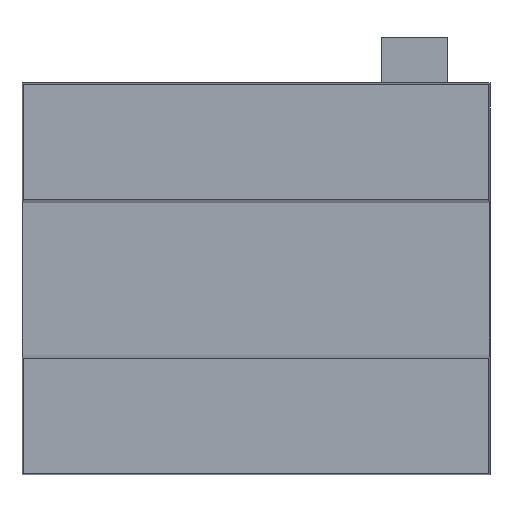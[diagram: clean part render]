
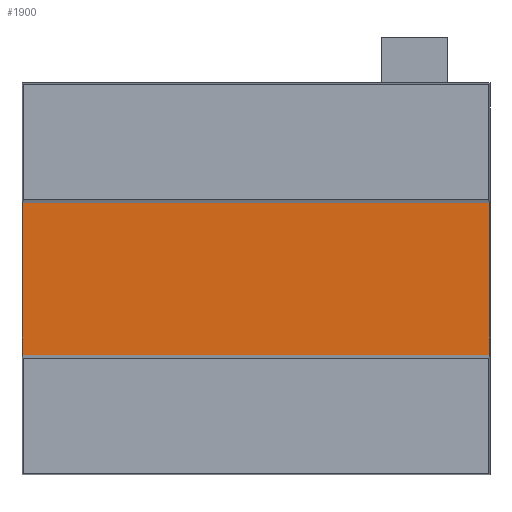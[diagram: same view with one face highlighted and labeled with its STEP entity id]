
A CAD part, front view. The second image highlights one B-rep face of the part: STEP entity #1900.
In plain terms, the highlighted planar face has unit normal (0, -1, 0).
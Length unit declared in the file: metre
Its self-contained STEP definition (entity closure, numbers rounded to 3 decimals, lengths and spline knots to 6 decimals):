
#151=ORIENTED_EDGE('',*,*,#638,.T.);
#152=ORIENTED_EDGE('',*,*,#634,.T.);
#153=ORIENTED_EDGE('',*,*,#639,.F.);
#154=ORIENTED_EDGE('',*,*,#620,.F.);
#620=EDGE_CURVE('',#876,#877,#1065,.F.);
#634=EDGE_CURVE('',#884,#887,#1079,.T.);
#638=EDGE_CURVE('',#876,#884,#1083,.T.);
#639=EDGE_CURVE('',#877,#887,#1084,.T.);
#876=VERTEX_POINT('',#2647);
#877=VERTEX_POINT('',#2649);
#884=VERTEX_POINT('',#2667);
#887=VERTEX_POINT('',#2674);
#1065=LINE('',#2648,#1312);
#1079=LINE('',#2675,#1326);
#1083=LINE('',#2682,#1330);
#1084=LINE('',#2684,#1331);
#1312=VECTOR('',#2183,1.);
#1326=VECTOR('',#2201,1.);
#1330=VECTOR('',#2211,1.);
#1331=VECTOR('',#2214,1.);
#1545=EDGE_LOOP('',(#151,#152,#153,#154));
#1676=FACE_BOUND('',#1545,.T.);
#1807=PLANE('',#2037);
#1900=ADVANCED_FACE('',(#1676),#1807,.F.);
#2037=AXIS2_PLACEMENT_3D('',#2685,#2215,#2216);
#2183=DIRECTION('',(0.,0.,1.));
#2201=DIRECTION('',(0.,0.,-1.));
#2211=DIRECTION('',(-1.,0.,0.));
#2214=DIRECTION('',(-1.,0.,0.));
#2215=DIRECTION('',(0.,1.,0.));
#2216=DIRECTION('',(0.,0.,1.));
#2647=CARTESIAN_POINT('',(0.053579,-0.0098,0.0175));
#2648=CARTESIAN_POINT('',(0.053579,-0.0098,-0.045));
#2649=CARTESIAN_POINT('',(0.053579,-0.0098,-0.0175));
#2667=CARTESIAN_POINT('',(-0.053579,-0.0098,0.0175));
#2674=CARTESIAN_POINT('',(-0.053579,-0.0098,-0.0175));
#2675=CARTESIAN_POINT('',(-0.053579,-0.0098,-0.045));
#2682=CARTESIAN_POINT('',(0.155342,-0.0098,0.0175));
#2684=CARTESIAN_POINT('',(0.155342,-0.0098,-0.0175));
#2685=CARTESIAN_POINT('',(0.155342,-0.0098,0.));
